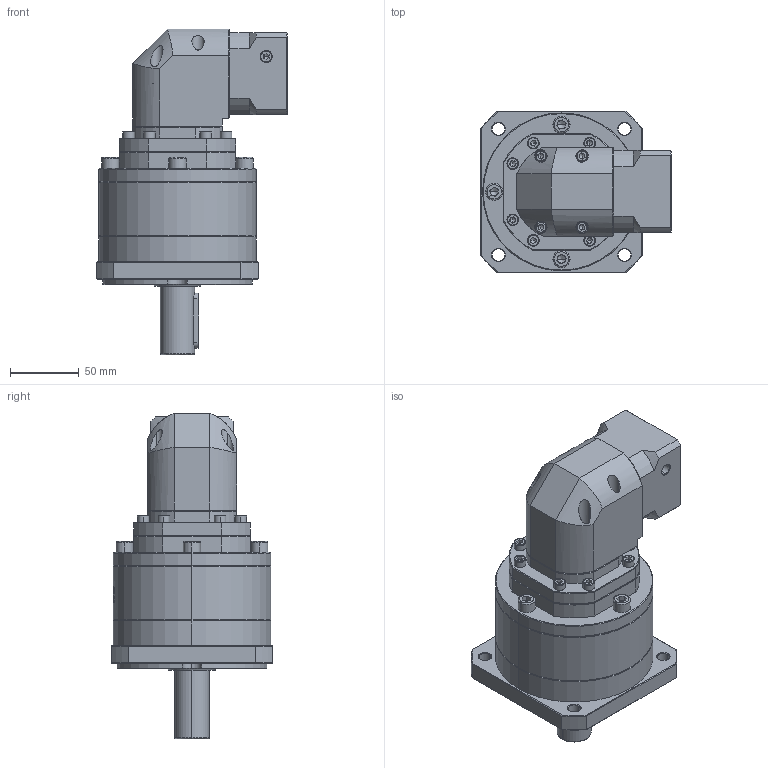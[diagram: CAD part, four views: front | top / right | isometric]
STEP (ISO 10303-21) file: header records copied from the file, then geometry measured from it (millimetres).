
FILE_DESCRIPTION (( 'STEP AP214' ), '1' );
FILE_NAME ('ZFR120A-D25-L3-P2-6.35-38.1-47.14x47.14-M4.step', '2023-08-27T09:48:43', ( '' ), ( '' ), 'SwSTEP 2.0', 'SolidWorks 2016', '' );
FILE_SCHEMA (( 'AUTOMOTIVE_DESIGN' ));
Length unit declared in the file: millimetre
Products named in the file (1): ZFR120A-D25-L3-P2-6.35-38.1-47.14x47.14-M4
Bounding box: 139.2 x 118 x 237.5 mm (x, y, z)
Volume: 1471939.1 mm3; surface area: 140702.5 mm2
Topology: 6 solids, 6 shells, 2431 faces, 6445 edges, 4131 vertices
Faces by surface type: plane 1173, cylinder 456, bspline 447, cone 347, torus 8
Entity records: 127270 total; most frequent: CARTESIAN_POINT 45671, ORIENTED_EDGE 12782, DIRECTION 9554, EDGE_CURVE 6391, VERTEX_POINT 4131, VECTOR 3402, LINE 3402, AXIS2_PLACEMENT_3D 3076
